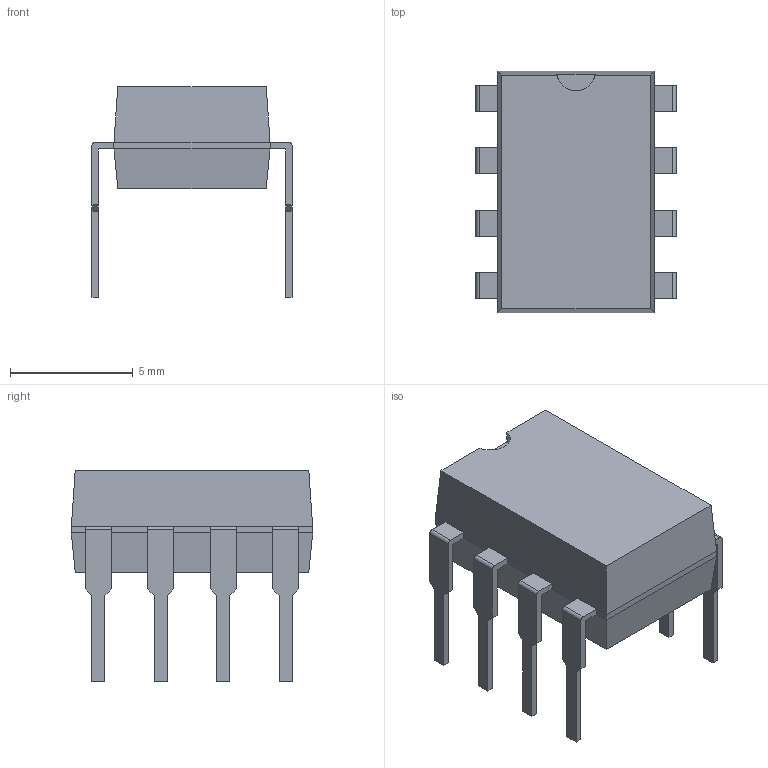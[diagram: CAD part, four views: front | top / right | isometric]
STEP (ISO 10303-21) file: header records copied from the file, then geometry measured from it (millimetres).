
FILE_DESCRIPTION(('FreeCAD Model'),'2;1');
FILE_NAME('/var/www/3D/0T/1001360.1.1.stp','2021-08-19T20:53:34',( 'Author'),(''),'Open CASCADE STEP processor 6.9','FreeCAD','Unknown' );
FILE_SCHEMA(('AUTOMOTIVE_DESIGN { 1 0 10303 214 1 1 1 1 }'));
Length unit declared in the file: millimetre
Products named in the file (3): ASSEMBLY; Body; PinsArrayLR
Assembly tree (2 placements, depth 2):
  ASSEMBLY
    Body
    PinsArrayLR
Bounding box: 8.14 x 9.82 x 8.58 mm (x, y, z)
Volume: 261 mm3; surface area: 367.8 mm2
Topology: 9 solids, 9 shells, 120 faces, 298 edges, 196 vertices
Faces by surface type: plane 111, cylinder 9
Entity records: 7521 total; most frequent: CARTESIAN_POINT 1279, DIRECTION 1148, LINE 850, VECTOR 850, ORIENTED_EDGE 596, PCURVE 596, DEFINITIONAL_REPRESENTATION 596, EDGE_CURVE 298
